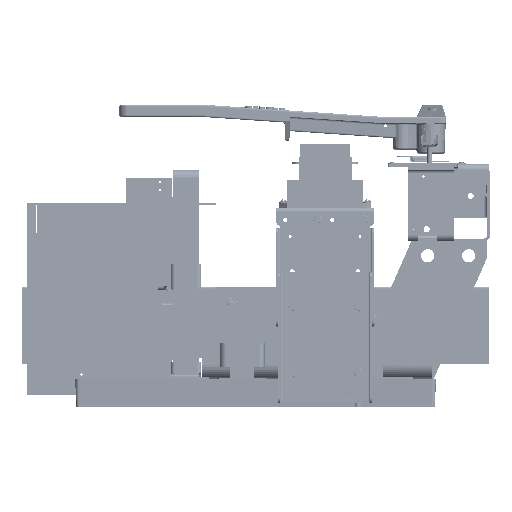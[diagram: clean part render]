
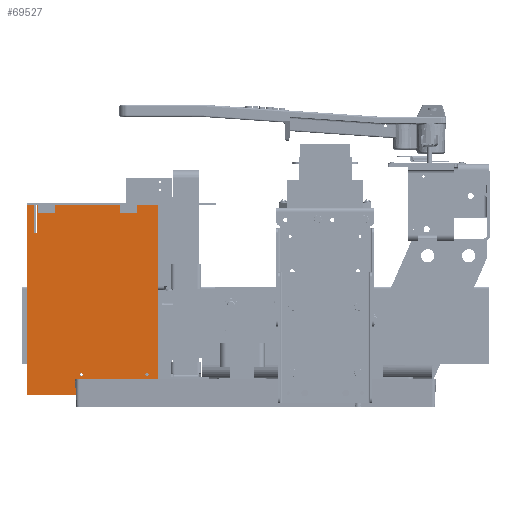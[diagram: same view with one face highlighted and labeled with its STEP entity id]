
A CAD part, left-side view. The second image highlights one B-rep face of the part: STEP entity #69527.
In plain terms, the highlighted planar face has unit normal (-1, 0, 0) as drawn and (0, 0, -1) by its records, which use the part's own axes.
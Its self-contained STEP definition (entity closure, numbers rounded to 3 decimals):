
#3750=FACE_BOUND('',#14930,.T.);
#3751=FACE_BOUND('',#14931,.T.);
#3752=FACE_BOUND('',#14932,.T.);
#3753=FACE_BOUND('',#14933,.T.);
#5846=CIRCLE('',#76610,0.097);
#5848=CIRCLE('',#76613,0.097);
#5850=CIRCLE('',#76616,0.097);
#5852=CIRCLE('',#76619,0.097);
#10513=FACE_OUTER_BOUND('',#14929,.T.);
#14929=EDGE_LOOP('',(#56589,#56590,#56591,#56592,#56593,#56594,#56595,#56596,
#56597,#56598,#56599,#56600));
#14930=EDGE_LOOP('',(#56601));
#14931=EDGE_LOOP('',(#56602));
#14932=EDGE_LOOP('',(#56603));
#14933=EDGE_LOOP('',(#56604));
#20484=LINE('',#117716,#26396);
#20488=LINE('',#117724,#26400);
#20491=LINE('',#117730,#26403);
#20494=LINE('',#117736,#26406);
#20497=LINE('',#117742,#26409);
#20500=LINE('',#117748,#26412);
#20503=LINE('',#117754,#26415);
#20506=LINE('',#117760,#26418);
#20509=LINE('',#117766,#26421);
#20512=LINE('',#117772,#26424);
#20515=LINE('',#117778,#26427);
#20518=LINE('',#117783,#26430);
#26396=VECTOR('',#90975,0.394);
#26400=VECTOR('',#90981,0.394);
#26403=VECTOR('',#90986,0.394);
#26406=VECTOR('',#90991,0.394);
#26409=VECTOR('',#90996,0.394);
#26412=VECTOR('',#91001,0.394);
#26415=VECTOR('',#91006,0.394);
#26418=VECTOR('',#91011,0.394);
#26421=VECTOR('',#91016,0.394);
#26424=VECTOR('',#91021,0.394);
#26427=VECTOR('',#91026,0.394);
#26430=VECTOR('',#91031,0.394);
#32583=VERTEX_POINT('',#117690);
#32585=VERTEX_POINT('',#117696);
#32587=VERTEX_POINT('',#117702);
#32589=VERTEX_POINT('',#117708);
#32591=VERTEX_POINT('',#117714);
#32592=VERTEX_POINT('',#117715);
#32595=VERTEX_POINT('',#117723);
#32597=VERTEX_POINT('',#117729);
#32599=VERTEX_POINT('',#117735);
#32601=VERTEX_POINT('',#117741);
#32603=VERTEX_POINT('',#117747);
#32605=VERTEX_POINT('',#117753);
#32607=VERTEX_POINT('',#117759);
#32609=VERTEX_POINT('',#117765);
#32611=VERTEX_POINT('',#117771);
#32613=VERTEX_POINT('',#117777);
#40952=EDGE_CURVE('',#32583,#32583,#5846,.T.);
#40955=EDGE_CURVE('',#32585,#32585,#5848,.T.);
#40958=EDGE_CURVE('',#32587,#32587,#5850,.T.);
#40961=EDGE_CURVE('',#32589,#32589,#5852,.T.);
#40964=EDGE_CURVE('',#32591,#32592,#20484,.T.);
#40968=EDGE_CURVE('',#32595,#32591,#20488,.T.);
#40971=EDGE_CURVE('',#32597,#32595,#20491,.T.);
#40974=EDGE_CURVE('',#32599,#32597,#20494,.T.);
#40977=EDGE_CURVE('',#32601,#32599,#20497,.T.);
#40980=EDGE_CURVE('',#32603,#32601,#20500,.T.);
#40983=EDGE_CURVE('',#32605,#32603,#20503,.T.);
#40986=EDGE_CURVE('',#32607,#32605,#20506,.T.);
#40989=EDGE_CURVE('',#32609,#32607,#20509,.T.);
#40992=EDGE_CURVE('',#32611,#32609,#20512,.T.);
#40995=EDGE_CURVE('',#32613,#32611,#20515,.T.);
#40998=EDGE_CURVE('',#32592,#32613,#20518,.T.);
#56589=ORIENTED_EDGE('',*,*,#40998,.F.);
#56590=ORIENTED_EDGE('',*,*,#40964,.F.);
#56591=ORIENTED_EDGE('',*,*,#40968,.F.);
#56592=ORIENTED_EDGE('',*,*,#40971,.F.);
#56593=ORIENTED_EDGE('',*,*,#40974,.F.);
#56594=ORIENTED_EDGE('',*,*,#40977,.F.);
#56595=ORIENTED_EDGE('',*,*,#40980,.F.);
#56596=ORIENTED_EDGE('',*,*,#40983,.F.);
#56597=ORIENTED_EDGE('',*,*,#40986,.F.);
#56598=ORIENTED_EDGE('',*,*,#40989,.F.);
#56599=ORIENTED_EDGE('',*,*,#40992,.F.);
#56600=ORIENTED_EDGE('',*,*,#40995,.F.);
#56601=ORIENTED_EDGE('',*,*,#40952,.T.);
#56602=ORIENTED_EDGE('',*,*,#40955,.T.);
#56603=ORIENTED_EDGE('',*,*,#40958,.T.);
#56604=ORIENTED_EDGE('',*,*,#40961,.T.);
#66436=PLANE('',#76634);
#69527=ADVANCED_FACE('',(#10513,#3750,#3751,#3752,#3753),#66436,.F.);
#76610=AXIS2_PLACEMENT_3D('',#117691,#90947,#90948);
#76613=AXIS2_PLACEMENT_3D('',#117697,#90954,#90955);
#76616=AXIS2_PLACEMENT_3D('',#117703,#90961,#90962);
#76619=AXIS2_PLACEMENT_3D('',#117709,#90968,#90969);
#76634=AXIS2_PLACEMENT_3D('',#117786,#91035,#91036);
#90947=DIRECTION('center_axis',(0.,0.,1.));
#90948=DIRECTION('ref_axis',(-1.,0.,0.));
#90954=DIRECTION('center_axis',(0.,0.,1.));
#90955=DIRECTION('ref_axis',(-1.,0.,0.));
#90961=DIRECTION('center_axis',(0.,0.,1.));
#90962=DIRECTION('ref_axis',(-1.,0.,0.));
#90968=DIRECTION('center_axis',(0.,0.,1.));
#90969=DIRECTION('ref_axis',(-1.,0.,0.));
#90975=DIRECTION('',(1.,0.,0.));
#90981=DIRECTION('',(0.,1.,0.));
#90986=DIRECTION('',(1.,0.,0.));
#90991=DIRECTION('',(0.,-1.,0.));
#90996=DIRECTION('',(-1.,0.,0.));
#91001=DIRECTION('',(0.,-1.,0.));
#91006=DIRECTION('',(1.,0.,0.));
#91011=DIRECTION('',(0.,-1.,0.));
#91016=DIRECTION('',(-1.,0.,0.));
#91021=DIRECTION('',(0.,1.,0.));
#91026=DIRECTION('',(1.,0.,0.));
#91031=DIRECTION('',(0.,-1.,0.));
#91035=DIRECTION('center_axis',(0.,0.,1.));
#91036=DIRECTION('ref_axis',(1.,0.,0.));
#117690=CARTESIAN_POINT('',(0.347,2.,0.));
#117691=CARTESIAN_POINT('Origin',(0.25,2.,0.));
#117696=CARTESIAN_POINT('',(0.347,7.,0.));
#117697=CARTESIAN_POINT('Origin',(0.25,7.,0.));
#117702=CARTESIAN_POINT('',(10.472,0.688,0.));
#117703=CARTESIAN_POINT('Origin',(10.375,0.688,0.));
#117708=CARTESIAN_POINT('',(10.472,4.688,0.));
#117709=CARTESIAN_POINT('Origin',(10.375,4.688,0.));
#117714=CARTESIAN_POINT('',(10.625,5.094,0.));
#117715=CARTESIAN_POINT('',(11.156,5.094,0.));
#117716=CARTESIAN_POINT('',(10.625,5.094,0.));
#117723=CARTESIAN_POINT('',(10.625,0.,0.));
#117724=CARTESIAN_POINT('',(10.625,0.,0.));
#117729=CARTESIAN_POINT('',(0.,0.,0.));
#117730=CARTESIAN_POINT('',(0.,0.,0.));
#117735=CARTESIAN_POINT('',(0.,7.422,0.));
#117736=CARTESIAN_POINT('',(0.,7.422,0.));
#117741=CARTESIAN_POINT('',(1.75,7.422,0.));
#117742=CARTESIAN_POINT('',(1.75,7.422,0.));
#117747=CARTESIAN_POINT('',(1.75,7.578,0.));
#117748=CARTESIAN_POINT('',(1.75,7.578,0.));
#117753=CARTESIAN_POINT('',(0.,7.578,0.));
#117754=CARTESIAN_POINT('',(0.,7.578,0.));
#117759=CARTESIAN_POINT('',(0.,8.,0.));
#117760=CARTESIAN_POINT('',(0.,8.,0.));
#117765=CARTESIAN_POINT('',(11.625,8.,0.));
#117766=CARTESIAN_POINT('',(11.625,8.,0.));
#117771=CARTESIAN_POINT('',(11.625,4.719,0.));
#117772=CARTESIAN_POINT('',(11.625,4.719,0.));
#117777=CARTESIAN_POINT('',(11.156,4.719,0.));
#117778=CARTESIAN_POINT('',(11.156,4.719,0.));
#117783=CARTESIAN_POINT('',(11.156,5.094,0.));
#117786=CARTESIAN_POINT('Origin',(5.401,4.41,0.));
